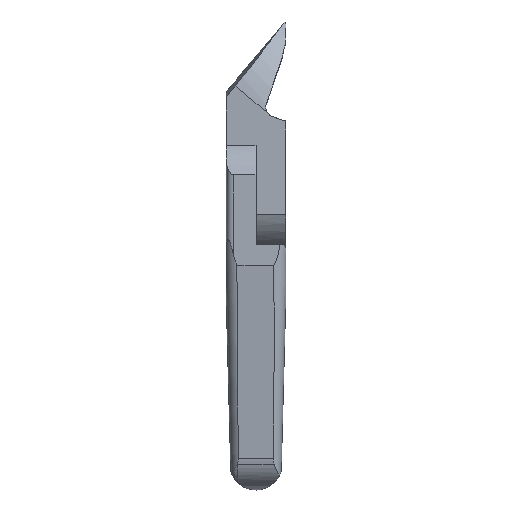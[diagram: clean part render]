
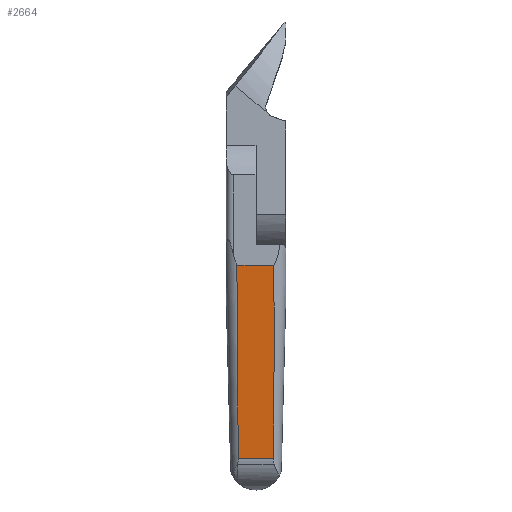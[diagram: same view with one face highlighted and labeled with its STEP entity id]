
A CAD part, front view. The second image highlights one B-rep face of the part: STEP entity #2664.
In plain terms, the highlighted planar face has unit normal (0, -0.996, -0.093).
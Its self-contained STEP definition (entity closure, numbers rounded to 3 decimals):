
#27 = EDGE_CURVE ( 'NONE', #3069, #856, #3842, .T. ) ;
#48 = B_SPLINE_CURVE_WITH_KNOTS ( 'NONE', 3,
 ( #2094, #2092, #2091, #2089 ),
 .UNSPECIFIED., .F., .F.,
 ( 4, 4 ),
 ( 0., 1. ),
 .UNSPECIFIED. ) ;
#50 = B_SPLINE_CURVE_WITH_KNOTS ( 'NONE', 3,
 ( #2348, #2345, #2342, #2332, #2330, #2327, #2324, #2321 ),
 .UNSPECIFIED., .F., .F.,
 ( 4, 2, 2, 4 ),
 ( 0., 0.25, 0.5, 1. ),
 .UNSPECIFIED. ) ;
#518 = CARTESIAN_POINT ( 'NONE',  ( 3.526, -7.757, -53.591 ) ) ;
#538 = CARTESIAN_POINT ( 'NONE',  ( -3.893, -11.44, -14.3 ) ) ;
#856 = VERTEX_POINT ( 'NONE', #538 ) ;
#881 = DIRECTION ( 'NONE',  ( -1., 0., 0. ) ) ;
#882 = CARTESIAN_POINT ( 'NONE',  ( -0.1, -11.44, -14.3 ) ) ;
#978 = VERTEX_POINT ( 'NONE', #518 ) ;
#1456 = DIRECTION ( 'NONE',  ( 0., 0.093, -0.996 ) ) ;
#1457 = DIRECTION ( 'NONE',  ( 0., -0.996, -0.093 ) ) ;
#1459 = CARTESIAN_POINT ( 'NONE',  ( -3.99, -11.44, -14.3 ) ) ;
#1461 = PLANE ( 'NONE',  #2820 ) ;
#2089 = CARTESIAN_POINT ( 'NONE',  ( -3.618, -7.757, -53.591 ) ) ;
#2091 = CARTESIAN_POINT ( 'NONE',  ( -3.869, -9.515, -34.836 ) ) ;
#2092 = CARTESIAN_POINT ( 'NONE',  ( -3.961, -10.743, -21.739 ) ) ;
#2094 = CARTESIAN_POINT ( 'NONE',  ( -3.893, -11.44, -14.3 ) ) ;
#2103 = CARTESIAN_POINT ( 'NONE',  ( 3.546, -11.44, -14.3 ) ) ;
#2214 = DIRECTION ( 'NONE',  ( 1., 0., 0. ) ) ;
#2218 = CARTESIAN_POINT ( 'NONE',  ( -0.1, -7.757, -53.591 ) ) ;
#2276 = CARTESIAN_POINT ( 'NONE',  ( -3.618, -7.757, -53.591 ) ) ;
#2321 = CARTESIAN_POINT ( 'NONE',  ( 3.546, -11.44, -14.3 ) ) ;
#2324 = CARTESIAN_POINT ( 'NONE',  ( 3.68, -11.295, -15.843 ) ) ;
#2327 = CARTESIAN_POINT ( 'NONE',  ( 3.745, -10.914, -19.915 ) ) ;
#2330 = CARTESIAN_POINT ( 'NONE',  ( 3.74, -9.986, -29.814 ) ) ;
#2332 = CARTESIAN_POINT ( 'NONE',  ( 3.721, -9.619, -33.723 ) ) ;
#2342 = CARTESIAN_POINT ( 'NONE',  ( 3.649, -8.773, -42.749 ) ) ;
#2345 = CARTESIAN_POINT ( 'NONE',  ( 3.596, -8.293, -47.867 ) ) ;
#2348 = CARTESIAN_POINT ( 'NONE',  ( 3.526, -7.757, -53.591 ) ) ;
#2664 = ADVANCED_FACE ( 'NONE', ( #4568 ), #1461, .T. ) ;
#2712 = EDGE_CURVE ( 'NONE', #978, #3069, #50, .T. ) ;
#2717 = EDGE_CURVE ( 'NONE', #2938, #978, #4529, .T. ) ;
#2820 = AXIS2_PLACEMENT_3D ( 'NONE', #1459, #1457, #1456 ) ;
#2938 = VERTEX_POINT ( 'NONE', #2276 ) ;
#3069 = VERTEX_POINT ( 'NONE', #2103 ) ;
#3720 = EDGE_CURVE ( 'NONE', #856, #2938, #48, .T. ) ;
#3841 = VECTOR ( 'NONE', #881, 1000. ) ;
#3842 = LINE ( 'NONE', #882, #3841 ) ;
#3950 = EDGE_LOOP ( 'NONE', ( #4791, #4725, #4888, #4666 ) ) ;
#4528 = VECTOR ( 'NONE', #2214, 1000. ) ;
#4529 = LINE ( 'NONE', #2218, #4528 ) ;
#4568 = FACE_OUTER_BOUND ( 'NONE', #3950, .T. ) ;
#4666 = ORIENTED_EDGE ( 'NONE', *, *, #2717, .T. ) ;
#4725 = ORIENTED_EDGE ( 'NONE', *, *, #27, .T. ) ;
#4791 = ORIENTED_EDGE ( 'NONE', *, *, #2712, .T. ) ;
#4888 = ORIENTED_EDGE ( 'NONE', *, *, #3720, .T. ) ;
